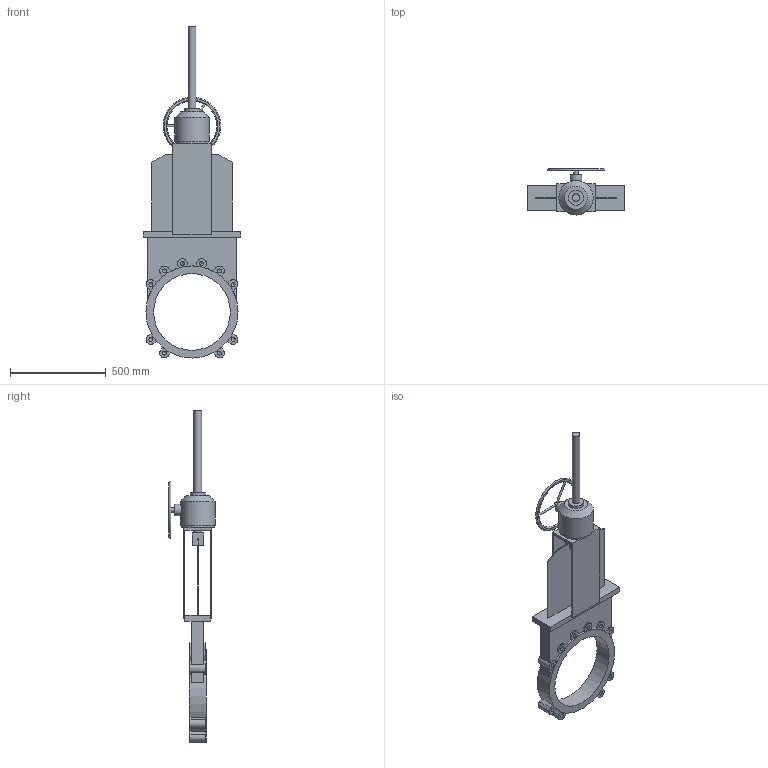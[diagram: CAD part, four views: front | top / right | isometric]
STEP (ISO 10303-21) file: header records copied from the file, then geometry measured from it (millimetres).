
FILE_DESCRIPTION(('STEP AP203'), '1');
FILE_NAME('Çàäâèæêà øèáåðíàÿ K21GV DN400 ðåäóêòîð+âûäâèæíîé øïèíäåëü', '', ('UNSPECIFIED'), ('UNSPECIFIED'), 'ASCON STEP Converter 1.6', 'ASCON Math Kernel', '');
FILE_SCHEMA(('CONFIG_CONTROL_DESIGN'));
Length unit declared in the file: millimetre
Bounding box: 510 x 240 x 1731 mm (x, y, z)
Volume: 20932356.2 mm3; surface area: 1758851.7 mm2
Topology: 1 solids, 1 shells, 177 faces, 469 edges, 299 vertices
Faces by surface type: plane 106, cylinder 46, cone 21, torus 4
Full cylindrical faces by diameter (mm): 10 x3, 20.752 x20, 24 x1, 40 x2, 60 x1, 80 x1, 175 x1, 180 x1, 400 x1, 480 x1
Entity records: 7773 total; most frequent: CARTESIAN_POINT 2170, DIRECTION 882, ORIENTED_EDGE 788, EDGE_CURVE 394, AXIS2_PLACEMENT_3D 323, VERTEX_POINT 279, EDGE_LOOP 249, LINE 236
